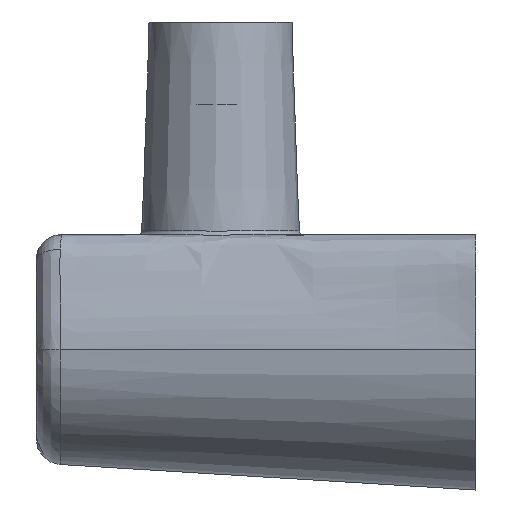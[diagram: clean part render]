
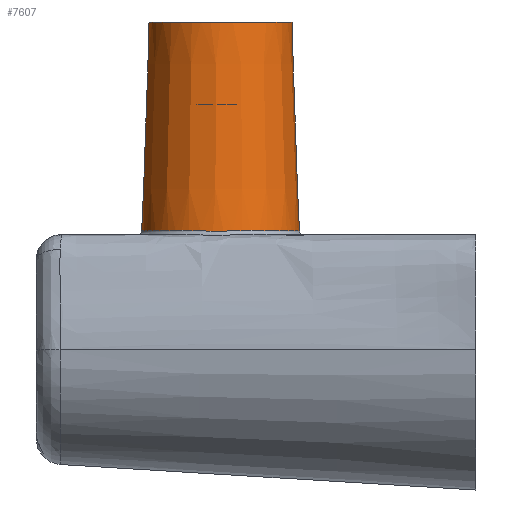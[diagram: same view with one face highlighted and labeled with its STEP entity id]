
A CAD part, left-side view. The second image highlights one B-rep face of the part: STEP entity #7607.
In plain terms, the highlighted conical face has half-angle 2 degrees and reference radius 5.05 mm.
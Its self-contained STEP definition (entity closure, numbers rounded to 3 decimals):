
#21=CONICAL_SURFACE('',#8040,5.05,0.035);
#1506=CIRCLE('',#8041,5.05);
#1999=ORIENTED_EDGE('',*,*,#4176,.T.);
#2000=ORIENTED_EDGE('',*,*,#4177,.T.);
#4176=EDGE_CURVE('',#5297,#5297,#6069,.T.);
#4177=EDGE_CURVE('',#5298,#5298,#1506,.T.);
#5297=VERTEX_POINT('',#20993);
#5298=VERTEX_POINT('',#20995);
#6069=B_SPLINE_CURVE_WITH_KNOTS('',3,(#20971,#20972,#20973,#20974,#20975,
#20976,#20977,#20978,#20979,#20980,#20981,#20982,#20983,#20984,#20985,#20986,
#20987,#20988,#20989,#20990,#20991,#20992),.UNSPECIFIED.,.T.,.F.,(1,1,1,
1,1,1,1,1,1,1,1,1,1,1,1,1,1,1,1,1,1,1,1,1,1,1),(-0.004,-0.002,
-0.001,0.,0.002,0.004,0.007,
0.009,0.011,0.013,0.015,
0.018,0.02,0.022,0.023,
0.024,0.025,0.026,0.029,
0.031,0.033,0.034,0.035,
0.037,0.04,0.042),.UNSPECIFIED.);
#6499=EDGE_LOOP('',(#1999));
#6500=EDGE_LOOP('',(#2000));
#7025=FACE_BOUND('',#6499,.T.);
#7026=FACE_BOUND('',#6500,.T.);
#7607=ADVANCED_FACE('',(#7025,#7026),#21,.T.);
#8040=AXIS2_PLACEMENT_3D('',#20970,#8572,#8573);
#8041=AXIS2_PLACEMENT_3D('',#20994,#8574,#8575);
#8572=DIRECTION('',(0.,0.,-1.));
#8573=DIRECTION('',(1.,0.,0.));
#8574=DIRECTION('',(0.,0.,-1.));
#8575=DIRECTION('',(-1.,0.,0.));
#20970=CARTESIAN_POINT('',(0.,18.,23.1));
#20971=CARTESIAN_POINT('',(-4.586,21.212,8.412));
#20972=CARTESIAN_POINT('',(-5.303,19.94,8.398));
#20973=CARTESIAN_POINT('',(-5.71,18.124,8.312));
#20974=CARTESIAN_POINT('',(-5.319,15.934,8.441));
#20975=CARTESIAN_POINT('',(-4.127,14.055,8.349));
#20976=CARTESIAN_POINT('',(-2.304,12.778,8.415));
#20977=CARTESIAN_POINT('',(-0.131,12.292,8.374));
#20978=CARTESIAN_POINT('',(2.065,12.679,8.425));
#20979=CARTESIAN_POINT('',(3.948,13.874,8.339));
#20980=CARTESIAN_POINT('',(5.223,15.7,8.446));
#20981=CARTESIAN_POINT('',(5.71,17.874,8.318));
#20982=CARTESIAN_POINT('',(5.384,19.703,8.383));
#20983=CARTESIAN_POINT('',(4.723,21.007,8.417));
#20984=CARTESIAN_POINT('',(4.043,21.874,8.383));
#20985=CARTESIAN_POINT('',(3.217,22.584,8.368));
#20986=CARTESIAN_POINT('',(1.934,23.306,8.412));
#20987=CARTESIAN_POINT('',(0.128,23.707,8.377));
#20988=CARTESIAN_POINT('',(-2.066,23.321,8.413));
#20989=CARTESIAN_POINT('',(-3.63,22.328,8.361));
#20990=CARTESIAN_POINT('',(-4.586,21.212,8.412));
#20991=CARTESIAN_POINT('',(-5.303,19.94,8.398));
#20992=CARTESIAN_POINT('',(-5.71,18.124,8.312));
#20993=CARTESIAN_POINT('',(-5.091,20.243,8.397));
#20994=CARTESIAN_POINT('',(0.,18.,23.1));
#20995=CARTESIAN_POINT('',(-5.05,18.,23.1));
